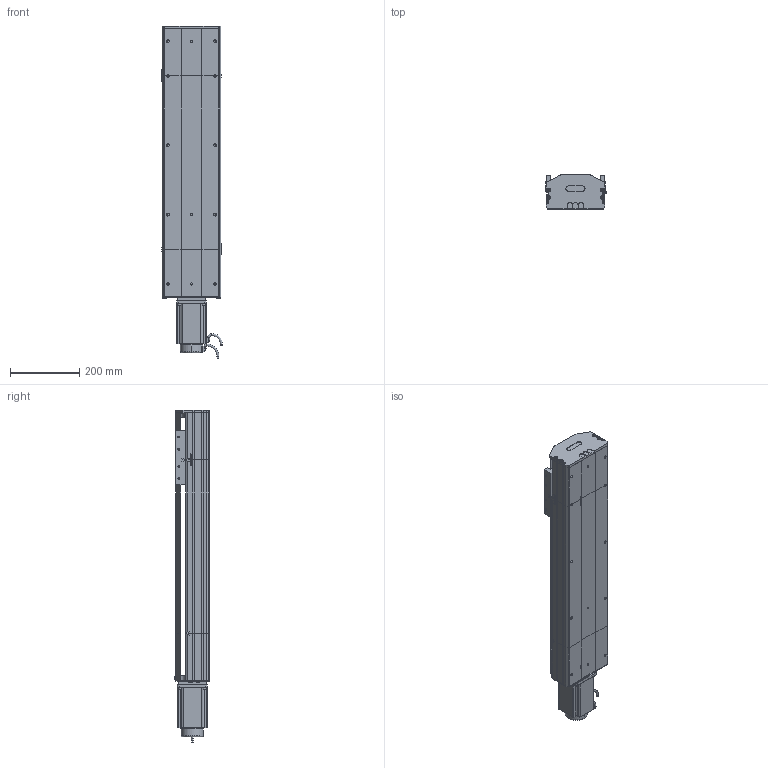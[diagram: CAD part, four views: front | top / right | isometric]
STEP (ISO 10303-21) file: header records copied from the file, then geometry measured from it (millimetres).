
FILE_DESCRIPTION (( 'STEP AP214' ), '1' );
FILE_NAME ('D17 TSH MD S500.STEP', '2010-06-29T14:52:00', ( 'Christophe Gaillard' ), ( 'SGA' ), 'SwSTEP 2.0', 'SolidWorks 2010', '' );
FILE_SCHEMA (( 'AUTOMOTIVE_DESIGN' ));
Length unit declared in the file: millimetre
Products named in the file (31): corpl head D17 MD_Default; couvercle D17 head_Default; plaque de  bout head D17_Default; Moteur motionking 90BLDC125A-640; vis M5 L5_Default; Arbre+rail head D17; Conecteur_Default; Chariot D17; chariot D17S_Default; Conecteur2_Default; avant 90BLDC125A-640; vis M5 L12_Default; guide D17; corps 90BLDC125A-640; codeur 90BLDC125-640; Vis M5 L16-2_Default; head MD_Default; vis M5 L25_Default; vis M5 L8 90°_Default; couvercle D17 course L500_Default; corp D17 500_Default; couvercle D17_Default; Arbre+rail tail D17; tete d''axe haut D17; tete d''axe bas D17; plaque de  bout tail D17_Default; corpl tail D17+L100_Default; Tail D17+L100_Default; arbre + rail D17 Course 500 ; course 500 D17_Default; D17 TSH MD S500
Assembly tree (50 placements, depth 4):
  D17 TSH MD S500
    chariot D17S_Default
      vis M5 L12_Default  x4
      Chariot D17
      guide D17  x2
    course 500 D17_Default
      arbre + rail D17 Course 500 
      couvercle D17 course L500_Default
      corp D17 500_Default
    Tail D17+L100_Default
      vis M5 L25_Default  x2
      couvercle D17_Default
      vis M5 L12_Default  x4
      tete d''axe haut D17
      vis M5 L8 90°_Default  x2
      tete d''axe bas D17
      Arbre+rail tail D17
      plaque de  bout tail D17_Default
      corpl tail D17+L100_Default
    head MD_Default
      Vis M5 L16-2_Default  x4
      corpl head D17 MD_Default
      vis M5 L12_Default  x6
      Arbre+rail head D17
      couvercle D17 head_Default
      plaque de  bout head D17_Default
      vis M5 L5_Default  x2
      Moteur motionking 90BLDC125A-640
        codeur 90BLDC125-640
        avant 90BLDC125A-640
        Conecteur_Default
        corps 90BLDC125A-640
        Conecteur2_Default
Bounding box: 174.95 x 99.7 x 957.5 mm (x, y, z)
Volume: 5769009.2 mm3; surface area: 1428091.7 mm2
Topology: 75 solids, 75 shells, 2092 faces, 5287 edges, 3428 vertices
Faces by surface type: plane 1323, cylinder 520, bspline 136, torus 57, cone 56
Entity records: 69989 total; most frequent: CARTESIAN_POINT 22226, ORIENTED_EDGE 8390, DIRECTION 7760, EDGE_CURVE 4195, VECTOR 2964, LINE 2964, VERTEX_POINT 2764, AXIS2_PLACEMENT_3D 2398
